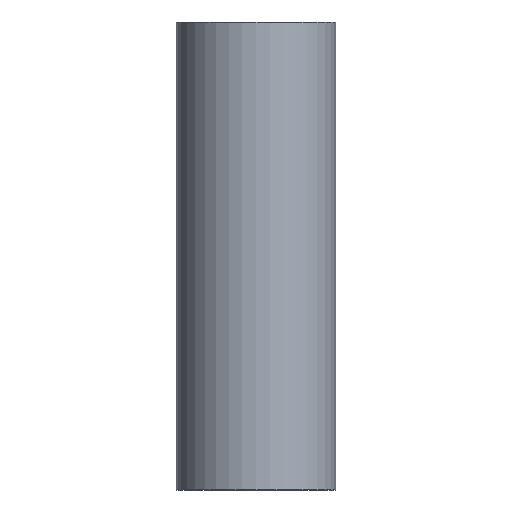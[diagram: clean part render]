
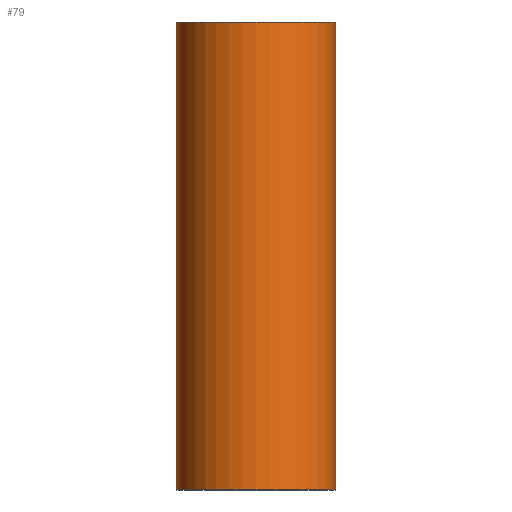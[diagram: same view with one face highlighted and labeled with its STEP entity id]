
A CAD part, front view. The second image highlights one B-rep face of the part: STEP entity #79.
In plain terms, the highlighted cylindrical face has radius 34 mm (diameter 68 mm), a full revolution.
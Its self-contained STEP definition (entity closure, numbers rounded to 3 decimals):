
#79=ADVANCED_FACE('',(#96,#97),#98,.T.);
#96=FACE_OUTER_BOUND('',#120,.T.);
#97=FACE_OUTER_BOUND('',#121,.T.);
#98=CYLINDRICAL_SURFACE('',#122,34.0);
#120=EDGE_LOOP('',(#152));
#121=EDGE_LOOP('',(#153));
#122=AXIS2_PLACEMENT_3D('',#154,#155,#156);
#152=ORIENTED_EDGE('',*,*,#178,.T.);
#153=ORIENTED_EDGE('',*,*,#177,.T.);
#154=CARTESIAN_POINT('',(0.0,0.0,200.0));
#155=DIRECTION('',(0.0,0.0,-1.0));
#156=DIRECTION('',(-1.0,0.0,0.0));
#177=EDGE_CURVE('',#190,#190,#191,.T.);
#178=EDGE_CURVE('',#192,#192,#193,.F.);
#190=VERTEX_POINT('',#206);
#191=CIRCLE('',#207,34.0);
#192=VERTEX_POINT('',#208);
#193=CIRCLE('',#209,34.0);
#206=CARTESIAN_POINT('',(34.0,0.0,0.2));
#207=AXIS2_PLACEMENT_3D('',#227,#228,#229);
#208=CARTESIAN_POINT('',(34.0,0.,199.8));
#209=AXIS2_PLACEMENT_3D('',#230,#231,#232);
#227=CARTESIAN_POINT('',(0.0,0.0,0.2));
#228=DIRECTION('',(0.0,0.0,1.0));
#229=DIRECTION('',(1.0,0.0,0.0));
#230=CARTESIAN_POINT('',(0.0,0.0,199.8));
#231=DIRECTION('',(0.0,0.0,1.0));
#232=DIRECTION('',(1.0,0.0,0.0));
